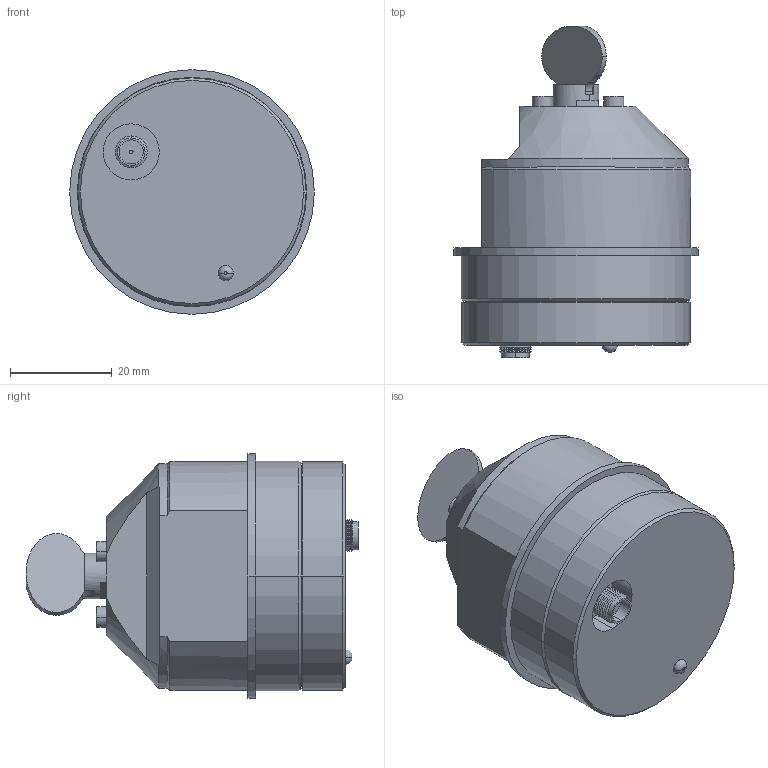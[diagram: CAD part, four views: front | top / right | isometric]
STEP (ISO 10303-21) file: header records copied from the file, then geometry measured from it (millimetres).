
FILE_DESCRIPTION (( 'STEP AP214' ), '1' );
FILE_NAME ('RTAX_A10_SiC.STEP', '2019-06-06T08:05:56', ( '' ), ( '' ), 'SwSTEP 2.0', 'SolidWorks 2011', '' );
FILE_SCHEMA (( 'AUTOMOTIVE_DESIGN' ));
Length unit declared in the file: millimetre
Products named in the file (5): RTAX_A10_SiC; Scanner_Solid; Scanner_Draw06_4; A10_SiC_MirrorX; socket head cap screw_iso_ISO 4762 M2 x 5 --- 5N
Assembly tree (5 placements, depth 2):
  RTAX_A10_SiC
    A10_SiC_MirrorX
    socket head cap screw_iso_ISO 4762 M2 x 5 --- 5N  x2
    Scanner_Solid
    Scanner_Draw06_4
Bounding box: 48 x 65.15 x 48 mm (x, y, z)
Volume: 65645.3 mm3; surface area: 11088.3 mm2
Topology: 5 solids, 5 shells, 201 faces, 452 edges, 274 vertices
Faces by surface type: plane 77, cylinder 55, cone 50, torus 16, bspline 3
Entity records: 6383 total; most frequent: CARTESIAN_POINT 1041, DIRECTION 921, ORIENTED_EDGE 784, EDGE_CURVE 392, AXIS2_PLACEMENT_3D 372, VERTEX_POINT 241, EDGE_LOOP 193, CIRCLE 193
